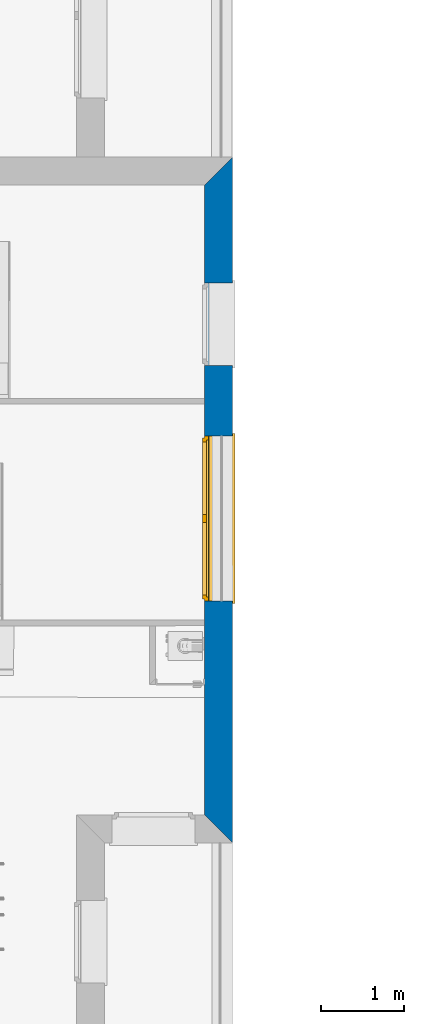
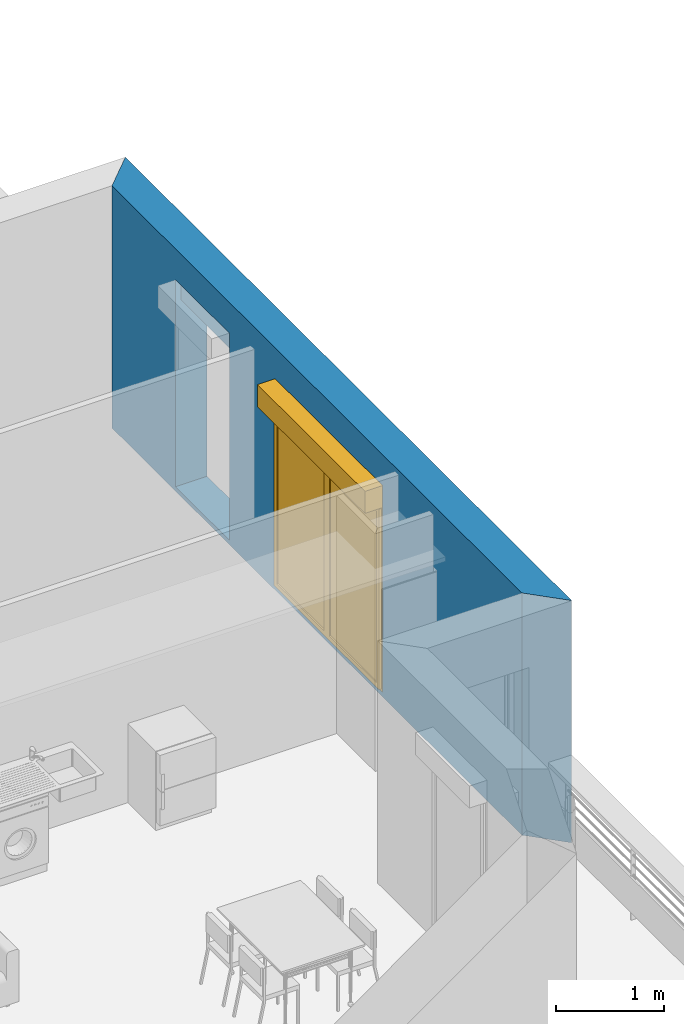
# One storey, part 17 of 164: 1 wall, 1 window, 2 openings.
"""IFC2X3 building model written with IfcOpenShell, lengths in millimetres."""

from ifc_helpers import new_model, entity, si_unit, converted_unit, derived_unit, money_unit, direction, frame, origin_with_axes, place, context, subcontext, project, spatial, polyline, outline, extrude, open_shell, faceted_brep, surface_model, source, transform, mapped, material, layer, layer_set, layer_usage, type_object, element, fill, save


model = new_model("IFC2X3")

# Units and contexts
model_context = context("Model", 3, precision=0.01, world=origin_with_axes(), true_north=direction((0.0, 1.0)))
body_context = subcontext(model_context, "Body", "Model", "MODEL_VIEW")
ifc_project = project(units=[si_unit("LENGTHUNIT", "METRE", prefix="MILLI"), si_unit("AREAUNIT", "SQUARE_METRE"), si_unit("VOLUMEUNIT", "CUBIC_METRE"), converted_unit("PLANEANGLEUNIT", "DEGREE", entity("IfcPlaneAngleMeasure", 0.0174532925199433), si_unit("PLANEANGLEUNIT", "RADIAN"), dimensions=[0, 0, 0, 0, 0, 0, 0]), money_unit("USD"), converted_unit("TIMEUNIT", "Year", entity("IfcTimeMeasure", 31557600.0), si_unit("TIMEUNIT", "SECOND"), dimensions=[0, 0, 1, 0, 0, 0, 0]), si_unit("MASSUNIT", "GRAM", prefix="KILO"), si_unit("THERMODYNAMICTEMPERATUREUNIT", "DEGREE_CELSIUS"), si_unit("LUMINOUSINTENSITYUNIT", "LUMEN"), si_unit("ENERGYUNIT", "JOULE", prefix="MEGA"), derived_unit("THERMALCONDUCTANCEUNIT", [(si_unit("POWERUNIT", "WATT"), 1), (si_unit("LENGTHUNIT", "METRE"), -1), (si_unit("THERMODYNAMICTEMPERATUREUNIT", "KELVIN"), -1)]), derived_unit("SPECIFICHEATCAPACITYUNIT", [(si_unit("ENERGYUNIT", "JOULE"), 1), (si_unit("MASSUNIT", "GRAM", prefix="KILO"), -1), (si_unit("THERMODYNAMICTEMPERATUREUNIT", "KELVIN"), -1)]), derived_unit("MASSDENSITYUNIT", [(si_unit("MASSUNIT", "GRAM", prefix="KILO"), 1), (si_unit("VOLUMEUNIT", "CUBIC_METRE"), -1)])], contexts=[model_context])

# Site, building, storey
site_placement = place(None, origin_with_axes())
site = spatial("IfcSite", under=ifc_project, at=site_placement, Name="Site", CompositionType="ELEMENT")
building_placement = place(site_placement, origin_with_axes())
building = spatial("IfcBuilding", under=site, at=building_placement, Name="Bâtiment", CompositionType="ELEMENT")
storey_placement = place(building_placement, frame((0.0, 0.0, 5750.0), z_axis=(0.0, 0.0, 1.0), x_axis=(1.0, 0.0, 0.0)))
storey = spatial("IfcBuildingStorey", under=building, at=storey_placement, Name="Etage1", CompositionType="ELEMENT", Elevation=5750.0)

# Wall, openings, window
ifc_material_1 = material(Name="Parpaing 312445824")
ifc_layer_1 = layer(ifc_material_1, 180.0, ventilated="UNKNOWN")
ifc_material_2 = material(Name="Isolant styromousse 301821074")
ifc_layer_2 = layer(ifc_material_2, 160.0, ventilated="UNKNOWN")
ifc_layer_set = layer_set([ifc_layer_1, ifc_layer_2], Name="isol int 18+16 0018356637")
ifc_layer_usage = layer_usage(ifc_layer_set, "AXIS2", "POSITIVE", 0.0)
wall_type = type_object("IfcWallType", Name="isol int 18+16 0018356637 340", PredefinedType="NOTDEFINED")
wall_placement = place(storey_placement, frame((2234356.671296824, -655041.4677782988, 0.0), z_axis=(0.0, 0.0, 1.0), x_axis=(0.0, 1.0, 0.0)))
wall = element("IfcWallStandardCase", 1, at=wall_placement, inside=storey, type_object=wall_type, material=ifc_layer_usage, Name="Mur-144", context=body_context, shape_type="SweptSolid", body=[
    extrude(outline(polyline([(0.0, 0.0), (8303.026474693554, 0.0), (7963.02647469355, 340.0000000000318), (339.9999999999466, 340.0000000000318), (0.0, 0.0)])), origin_with_axes(), (0.0, 0.0, 1.0), 2750.0),
])
opening_1_placement = place(wall_placement, frame((3927.8378465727, -2.273736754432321e-10, 49.99999999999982), z_axis=(0.0, 0.0, 1.0), x_axis=(1.0, 0.0, 0.0)))
opening_1 = element("IfcOpeningElement", 2, at=opening_1_placement, cuts=wall, Name="Fen-207", context=body_context, shape_type="Brep", body=[
    faceted_brep([(1000.0, 290.0000000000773, 2100.0), (1000.0, 280.0000000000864, 2100.0), (1000.0, -0.9999999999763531, 2100.0), (1000.0, -0.9999999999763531, 0.0), (1000.0, 290.0000000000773, 0.0), (1000.0, 341.0000000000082, 2100.0), (1000.0, 530.0000000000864, 2100.0), (1000.0, 530.0000000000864, 2350.0), (1000.0, 280.0000000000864, 2350.0), (-1000.0, 280.0000000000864, 2100.0), (-1000.0, -0.9999999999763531, 2100.0), (-1000.0, -0.9999999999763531, 0.0), (-1000.0, 290.0000000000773, 0.0), (-1000.0, 341.0000000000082, 0.0), (1000.0, 341.0000000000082, 0.0), (-1000.0, 341.0000000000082, 2100.0), (-1000.0, 530.0000000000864, 2100.0), (-1000.0, 530.0000000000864, 2350.0), (-1000.0, 280.0000000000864, 2350.0), (-1000.0, 290.0000000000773, 2100.0)], [[[0, 1, 2, 3, 4]], [[1, 0, 5, 6, 7, 8]], [[1, 9, 10, 2]], [[10, 11, 3, 2]], [[4, 3, 11, 12, 13, 14]], [[5, 0, 4, 14]], [[5, 15, 16, 6]], [[7, 6, 16, 17]], [[8, 7, 17, 18]], [[9, 1, 8, 18]], [[9, 19, 12, 11, 10]], [[19, 15, 13, 12]], [[15, 5, 14, 13]], [[19, 9, 18, 17, 16, 15]]]),
])
opening_2_placement = place(wall_placement, frame((6281.330882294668, -2.273736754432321e-10, 49.99999999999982), z_axis=(0.0, 0.0, 1.0), x_axis=(1.0, 0.0, 0.0)))
element("IfcOpeningElement", 3, at=opening_2_placement, cuts=wall, Name="Fen-133", context=body_context, shape_type="Brep", body=[
    faceted_brep([(500.0, 290.0000000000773, 2100.0), (500.0, 280.0000000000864, 2100.0), (500.0, -0.9999999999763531, 2100.0), (500.0, -0.9999999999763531, 0.0), (500.0, 290.0000000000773, 0.0), (500.0, 341.0000000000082, 2100.0), (500.0, 530.0000000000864, 2100.0), (500.0, 530.0000000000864, 2350.0), (500.0, 280.0000000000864, 2350.0), (-500.0, 280.0000000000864, 2100.0), (-500.0, -0.9999999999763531, 2100.0), (-500.0, -0.9999999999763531, 0.0), (-500.0, 290.0000000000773, 0.0), (-500.0, 341.0000000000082, 0.0), (500.0, 341.0000000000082, 0.0), (-500.0, 341.0000000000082, 2100.0), (-500.0, 530.0000000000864, 2100.0), (-500.0, 530.0000000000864, 2350.0), (-500.0, 280.0000000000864, 2350.0), (-500.0, 290.0000000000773, 2100.0)], [[[0, 1, 2, 3, 4]], [[1, 0, 5, 6, 7, 8]], [[1, 9, 10, 2]], [[10, 11, 3, 2]], [[4, 3, 11, 12, 13, 14]], [[5, 0, 4, 14]], [[5, 15, 16, 6]], [[7, 6, 16, 17]], [[8, 7, 17, 18]], [[9, 1, 8, 18]], [[9, 19, 12, 11, 10]], [[19, 15, 13, 12]], [[15, 5, 14, 13]], [[19, 9, 18, 17, 16, 15]]]),
])
window_style = type_object("IfcWindowStyle", Name="Fenêtre châssis double variable 27", ConstructionType="NOTDEFINED", OperationType="DOUBLE_PANEL_VERTICAL", ParameterTakesPrecedence=False, Sizeable=False)
shared_shape = source(origin_with_axes(), body_context, "Body", "SurfaceModel", [
    surface_model("IfcShellBasedSurfaceModel", [(1000.0, -51.00000000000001, 40.00000000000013), (1000.0, -51.00000000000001, 50.00000000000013), (-1000.0, -51.00000000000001, 50.0), (-1000.0, -51.00000000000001, 40.0), (1030.0, -369.9999999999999, 28.96551724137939), (1030.0, -339.9999999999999, 30.00324289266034), (1000.0, -339.9999999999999, 30.00324289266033), (-1000.0, -339.9999999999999, 30.00324289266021), (-1030.0, -339.9999999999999, 30.00324289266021), (-1030.0, -369.9999999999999, 28.96551724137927), (1030.0, -369.9999999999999, 8.965517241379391), (-1030.0, -369.9999999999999, 8.965517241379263), (1030.0, -359.9999999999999, 18.96551724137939), (-1030.0, -359.9999999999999, 18.96551724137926)], [open_shell([[[0, 1, 2, 3]], [[4, 5, 6, 0, 3, 7, 8, 9]], [[10, 4, 9, 11]], [[12, 10, 11, 13]]])]),
    faceted_brep([(-1000.0, -60.00000000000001, 2350.0), (-997.0, -60.00000000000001, 2350.0), (-997.0, 190.0, 2350.0), (-1000.0, 190.0, 2350.0), (-1000.0, -60.00000000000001, 2100.0), (-997.0, -60.00000000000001, 2100.0), (-997.0, 190.0, 2100.0), (-1000.0, 190.0, 2100.0)], [[[0, 1, 2, 3]], [[4, 5, 1, 0]], [[1, 5, 6, 2]], [[3, 2, 6, 7]], [[0, 3, 7, 4]], [[7, 6, 5, 4]]]),
    faceted_brep([(997.0000000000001, -59.99999999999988, 2350.0), (1000.0, -59.99999999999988, 2350.0), (1000.0, 190.0000000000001, 2350.0), (997.0000000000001, 190.0000000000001, 2350.0), (997.0000000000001, -59.99999999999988, 2100.0), (1000.0, -59.99999999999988, 2100.0), (1000.0, 190.0000000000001, 2100.0), (997.0000000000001, 190.0000000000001, 2100.0)], [[[0, 1, 2, 3]], [[4, 5, 1, 0]], [[1, 5, 6, 2]], [[3, 2, 6, 7]], [[0, 3, 7, 4]], [[7, 6, 5, 4]]]),
    faceted_brep([(-997.0, -60.0, 2100.0), (997.0, -59.99999999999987, 2100.0), (997.0, -59.99999999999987, 2350.0), (-997.0, -60.0, 2350.0), (-997.0, -56.99999999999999, 2100.0), (997.0, -56.99999999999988, 2100.0), (997.0, -56.99999999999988, 2347.0), (997.0, 187.0000000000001, 2347.0), (997.0, 187.0000000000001, 2103.0), (997.0, -37.99999999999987, 2103.0), (997.0, -37.99999999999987, 2100.0), (997.0, 190.0000000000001, 2100.0), (997.0, 190.0000000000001, 2350.0), (-997.0, 190.0, 2350.0), (-997.0, 190.0, 2100.0), (-997.0, -37.99999999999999, 2100.0), (-997.0, -37.99999999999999, 2103.0), (-997.0, 187.0, 2103.0), (-997.0, 187.0, 2347.0), (-997.0, -56.99999999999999, 2347.0)], [[[0, 1, 2, 3]], [[4, 5, 1, 0]], [[1, 5, 6, 7, 8, 9, 10, 11, 12, 2]], [[3, 2, 12, 13]], [[0, 3, 13, 14, 15, 16, 17, 18, 19, 4]], [[19, 6, 5, 4]], [[18, 7, 6, 19]], [[17, 8, 7, 18]], [[16, 9, 8, 17]], [[15, 10, 9, 16]], [[14, 11, 10, 15]], [[13, 12, 11, 14]]]),
    faceted_brep([(-994.0, -40.37442957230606, 2206.419644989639), (-994.0, -41.99999999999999, 2225.0), (-994.0, -40.37442957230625, 2243.580355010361), (-994.0, -35.54711042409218, 2261.596155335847), (-994.0, -27.66471820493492, 2278.5), (-994.0, -16.96675541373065, 2293.77827423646), (-994.0, -3.778274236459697, 2306.966755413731), (-994.0, 11.5, 2317.664718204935), (-994.0, 28.40384466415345, 2325.547110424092), (-994.0, 46.41964498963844, 2330.374429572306), (-994.0, 64.99999999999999, 2332.0), (-994.0, 83.58035501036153, 2330.374429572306), (-994.0, 101.5961553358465, 2325.547110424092), (-994.0, 118.5, 2317.664718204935), (-994.0, 133.7782742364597, 2306.966755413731), (-994.0, 146.9667554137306, 2293.77827423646), (-994.0, 157.6647182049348, 2278.5), (-994.0, 165.5471104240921, 2261.596155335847), (-994.0, 170.3744295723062, 2243.580355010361), (-994.0, 171.9999999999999, 2225.0), (-994.0, 170.3744295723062, 2206.419644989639), (-994.0, 165.5471104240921, 2188.403844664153), (-994.0, 157.6647182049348, 2171.5), (-994.0, 146.9667554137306, 2156.22172576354), (-994.0, 133.7782742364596, 2143.03324458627), (-994.0, 118.4999999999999, 2132.335281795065), (-994.0, 101.5961553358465, 2124.452889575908), (-994.0, 83.58035501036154, 2119.625570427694), (-994.0, 65.00000000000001, 2118.0), (-994.0, 46.4196449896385, 2119.625570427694), (-994.0, 28.40384466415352, 2124.452889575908), (-994.0, 11.50000000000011, 2132.335281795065), (-994.0, -3.778274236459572, 2143.03324458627), (-994.0, -16.9667554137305, 2156.22172576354), (-994.0, -27.66471820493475, 2171.5), (-994.0, -35.54711042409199, 2188.403844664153), (994.0, -40.37442957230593, 2206.419644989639), (994.0, -41.99999999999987, 2225.0), (994.0, -40.37442957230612, 2243.580355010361), (994.0, -35.54711042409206, 2261.596155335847), (994.0, -27.6647182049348, 2278.5), (994.0, -16.96675541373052, 2293.77827423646), (994.0, -3.778274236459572, 2306.966755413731), (994.0, 11.50000000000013, 2317.664718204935), (994.0, 28.40384466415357, 2325.547110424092), (994.0, 46.41964498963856, 2330.374429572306), (994.0, 65.00000000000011, 2332.0), (994.0, 83.58035501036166, 2330.374429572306), (994.0, 101.5961553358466, 2325.547110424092), (994.0, 118.5000000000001, 2317.664718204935), (994.0, 133.7782742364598, 2306.966755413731), (994.0, 146.9667554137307, 2293.77827423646), (994.0, 157.664718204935, 2278.5), (994.0, 165.5471104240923, 2261.596155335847), (994.0, 170.3744295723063, 2243.580355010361), (994.0, 172.0, 2225.0), (994.0, 170.3744295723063, 2206.419644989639), (994.0, 165.5471104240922, 2188.403844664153), (994.0, 157.6647182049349, 2171.5), (994.0, 146.9667554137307, 2156.22172576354), (994.0, 133.7782742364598, 2143.03324458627), (994.0, 118.5000000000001, 2132.335281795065), (994.0, 101.5961553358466, 2124.452889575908), (994.0, 83.58035501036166, 2119.625570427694), (994.0, 65.00000000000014, 2118.0), (994.0, 46.41964498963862, 2119.625570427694), (994.0, 28.40384466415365, 2124.452889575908), (994.0, 11.50000000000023, 2132.335281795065), (994.0, -3.778274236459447, 2143.03324458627), (994.0, -16.96675541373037, 2156.22172576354), (994.0, -27.66471820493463, 2171.5), (994.0, -35.54711042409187, 2188.403844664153)], [[[0, 1, 2, 3, 4, 5, 6, 7, 8, 9, 10, 11, 12, 13, 14, 15, 16, 17, 18, 19, 20, 21, 22, 23, 24, 25, 26, 27, 28, 29, 30, 31, 32, 33, 34, 35]], [[0, 36, 37, 1]], [[1, 37, 38, 2]], [[2, 38, 39, 3]], [[3, 39, 40, 4]], [[4, 40, 41, 5]], [[5, 41, 42, 6]], [[6, 42, 43, 7]], [[7, 43, 44, 8]], [[8, 44, 45, 9]], [[9, 45, 46, 10]], [[10, 46, 47, 11]], [[11, 47, 48, 12]], [[12, 48, 49, 13]], [[13, 49, 50, 14]], [[14, 50, 51, 15]], [[15, 51, 52, 16]], [[16, 52, 53, 17]], [[17, 53, 54, 18]], [[18, 54, 55, 19]], [[19, 55, 56, 20]], [[20, 56, 57, 21]], [[21, 57, 58, 22]], [[22, 58, 59, 23]], [[23, 59, 60, 24]], [[24, 60, 61, 25]], [[25, 61, 62, 26]], [[26, 62, 63, 27]], [[27, 63, 64, 28]], [[28, 64, 65, 29]], [[29, 65, 66, 30]], [[30, 66, 67, 31]], [[31, 67, 68, 32]], [[32, 68, 69, 33]], [[33, 69, 70, 34]], [[34, 70, 71, 35]], [[35, 71, 36, 0]], [[36, 71, 70, 69, 68, 67, 66, 65, 64, 63, 62, 61, 60, 59, 58, 57, 56, 55, 54, 53, 52, 51, 50, 49, 48, 47, 46, 45, 44, 43, 42, 41, 40, 39, 38, 37]]]),
    faceted_brep([(1000.0, -34.99999999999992, 30.0), (1000.0, -34.99999999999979, 2100.0), (1000.0, -59.99999999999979, 2100.0), (1000.0, -59.99999999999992, 30.0), (975.0, -34.99999999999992, 30.0), (975.0, -34.99999999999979, 2100.0), (975.0, -37.99999999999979, 2100.0), (997.0, -37.99999999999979, 2100.0), (997.0, -56.99999999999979, 2100.0), (975.0, -56.99999999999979, 2100.0), (975.0, -59.99999999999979, 2100.0), (975.0, -59.99999999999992, 30.0), (975.0, -56.99999999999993, 30.0), (997.0, -56.99999999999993, 30.0), (997.0, -37.99999999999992, 30.0), (975.0, -37.99999999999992, 30.0)], [[[0, 1, 2, 3]], [[4, 5, 1, 0]], [[1, 5, 6, 7, 8, 9, 10, 2]], [[3, 2, 10, 11]], [[0, 3, 11, 12, 13, 14, 15, 4]], [[15, 6, 5, 4]], [[14, 7, 6, 15]], [[13, 8, 7, 14]], [[12, 9, 8, 13]], [[11, 10, 9, 12]]]),
    faceted_brep([(-1000.0, -34.99999999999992, 30.0), (-1000.0, -59.99999999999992, 30.0), (-1000.0, -59.99999999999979, 2100.0), (-1000.0, -34.99999999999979, 2100.0), (-975.0, -34.99999999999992, 30.0), (-975.0, -37.99999999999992, 30.0), (-997.0, -37.99999999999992, 30.0), (-997.0, -56.99999999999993, 30.0), (-975.0, -56.99999999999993, 30.0), (-975.0, -59.99999999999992, 30.0), (-975.0, -59.99999999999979, 2100.0), (-975.0, -56.99999999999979, 2100.0), (-997.0, -56.99999999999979, 2100.0), (-997.0, -37.99999999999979, 2100.0), (-975.0, -37.99999999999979, 2100.0), (-975.0, -34.99999999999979, 2100.0)], [[[0, 1, 2, 3]], [[0, 4, 5, 6, 7, 8, 9, 1]], [[1, 9, 10, 2]], [[3, 2, 10, 11, 12, 13, 14, 15]], [[4, 0, 3, 15]], [[5, 4, 15, 14]], [[6, 5, 14, 13]], [[7, 6, 13, 12]], [[8, 7, 12, 11]], [[9, 8, 11, 10]]]),
    faceted_brep([(997.0, -46.66666666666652, 2225.0), (997.0, -46.66666666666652, 2216.666666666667), (-997.0, -46.66666666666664, 2216.666666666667), (-997.0, -46.66666666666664, 2225.0), (997.0, -51.66666666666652, 2225.0), (997.0, -51.66666666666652, 2216.666666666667), (997.0, -49.99999999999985, 2200.0), (997.0, -44.99999999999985, 2200.0), (-997.0, -44.99999999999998, 2200.0), (-997.0, -49.99999999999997, 2200.0), (-997.0, -51.66666666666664, 2216.666666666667), (-997.0, -51.66666666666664, 2225.0)], [[[0, 1, 2, 3]], [[4, 5, 6, 7, 1, 0]], [[2, 1, 7, 8]], [[3, 2, 8, 9, 10, 11]], [[3, 11, 4, 0]], [[10, 5, 4, 11]], [[9, 6, 5, 10]], [[8, 7, 6, 9]]]),
    faceted_brep([(-997.0, -44.99999999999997, 2200.0), (997.0, -44.99999999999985, 2200.0), (997.0, -46.66666666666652, 2183.333333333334), (-997.0, -46.66666666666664, 2183.333333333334), (-997.0, -49.99999999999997, 2200.0), (997.0, -49.99999999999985, 2200.0), (997.0, -51.66666666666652, 2183.333333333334), (997.0, -51.66666666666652, 2166.666666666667), (997.0, -49.99999999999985, 2150.000000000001), (997.0, -44.99999999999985, 2150.000000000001), (997.0, -46.66666666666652, 2166.666666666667), (-997.0, -46.66666666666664, 2166.666666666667), (-997.0, -44.99999999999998, 2150.000000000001), (-997.0, -49.99999999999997, 2150.000000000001), (-997.0, -51.66666666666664, 2166.666666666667), (-997.0, -51.66666666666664, 2183.333333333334)], [[[0, 1, 2, 3]], [[4, 5, 1, 0]], [[1, 5, 6, 7, 8, 9, 10, 2]], [[3, 2, 10, 11]], [[0, 3, 11, 12, 13, 14, 15, 4]], [[15, 6, 5, 4]], [[14, 7, 6, 15]], [[13, 8, 7, 14]], [[12, 9, 8, 13]], [[11, 10, 9, 12]]]),
    faceted_brep([(-997.0, -44.99999999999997, 2150.000000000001), (997.0, -44.99999999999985, 2150.000000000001), (997.0, -46.66666666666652, 2133.333333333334), (-997.0, -46.66666666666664, 2133.333333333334), (-997.0, -49.99999999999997, 2150.000000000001), (997.0, -49.99999999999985, 2150.000000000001), (997.0, -51.66666666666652, 2133.333333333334), (997.0, -51.66666666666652, 2116.666666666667), (997.0, -49.99999999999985, 2100.000000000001), (997.0, -44.99999999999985, 2100.000000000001), (997.0, -46.66666666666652, 2116.666666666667), (-997.0, -46.66666666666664, 2116.666666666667), (-997.0, -44.99999999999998, 2100.000000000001), (-997.0, -49.99999999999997, 2100.000000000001), (-997.0, -51.66666666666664, 2116.666666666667), (-997.0, -51.66666666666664, 2133.333333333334)], [[[0, 1, 2, 3]], [[4, 5, 1, 0]], [[1, 5, 6, 7, 8, 9, 10, 2]], [[3, 2, 10, 11]], [[0, 3, 11, 12, 13, 14, 15, 4]], [[15, 6, 5, 4]], [[14, 7, 6, 15]], [[13, 8, 7, 14]], [[12, 9, 8, 13]], [[11, 10, 9, 12]]]),
    faceted_brep([(-975.0, 0.0, 2050.0), (-1000.0, 0.0, 2050.0), (-1000.0, -50.00000000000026, 2050.0), (-950.0, -50.00000000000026, 2050.0), (-950.0, -25.00000000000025, 2050.0), (-975.0, -25.00000000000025, 2050.0), (-975.0, 0.0, 50.00000000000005), (-1000.0, 0.0, 50.00000000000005), (-1000.0, -50.00000000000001, 50.00000000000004), (-950.0, -50.00000000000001, 50.00000000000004), (-950.0, -25.00000000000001, 50.00000000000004), (-975.0, -25.00000000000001, 50.00000000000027)], [[[0, 1, 2, 3, 4, 5]], [[6, 7, 1, 0]], [[1, 7, 8, 2]], [[2, 8, 9, 3]], [[4, 3, 9, 10]], [[10, 11, 5, 4]], [[5, 11, 6, 0]], [[11, 10, 9, 8, 7, 6]]]),
    faceted_brep([(950.0, -25.00000000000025, 2050.0), (950.0, -50.00000000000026, 2050.0), (1000.0, -50.00000000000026, 2050.0), (1000.0, 0.0, 2050.0), (975.0, 0.0, 2050.0), (975.0, -25.00000000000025, 2050.0), (950.0, -25.00000000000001, 50.00000000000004), (950.0, -50.00000000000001, 50.00000000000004), (1000.0, -50.00000000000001, 50.00000000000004), (1000.0, 0.0, 50.00000000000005), (975.0, 0.0, 50.00000000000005), (975.0, -25.00000000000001, 50.00000000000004)], [[[0, 1, 2, 3, 4, 5]], [[6, 7, 1, 0]], [[8, 2, 1, 7]], [[9, 3, 2, 8]], [[4, 3, 9, 10]], [[10, 11, 5, 4]], [[5, 11, 6, 0]], [[11, 10, 9, 8, 7, 6]]]),
    faceted_brep([(950.0, -25.00000000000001, 50.00000000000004), (950.0, -50.00000000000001, 50.00000000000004), (1000.0, -50.00000000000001, 50.00000000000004), (1000.0, 0.0, 50.00000000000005), (975.0, 0.0, 50.00000000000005), (975.0, -25.00000000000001, 50.00000000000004), (-950.0, -25.00000000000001, 50.00000000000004), (-950.0, -50.00000000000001, 50.00000000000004), (-1000.0, -50.00000000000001, 50.00000000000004), (-1000.0, -50.0, 0.0), (1000.0, -50.0, 0.0), (1000.0, 0.0, 0.0), (-975.0, 0.0, 24.99999999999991), (975.0, 0.0, 24.99999999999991), (-1000.0, 0.0, 0.0), (-1000.0, 0.0, 50.00000000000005), (-975.0, 0.0, 50.00000000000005), (975.0, -25.0, 24.99999999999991), (-975.0, -25.0, 24.99999999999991), (-975.0, -25.00000000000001, 50.00000000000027)], [[[0, 1, 2, 3, 4, 5]], [[6, 7, 1, 0]], [[8, 9, 10, 2, 1, 7]], [[11, 3, 2, 10]], [[12, 13, 4, 3, 11, 14, 15, 16]], [[13, 17, 5, 4]], [[5, 17, 18, 19, 6, 0]], [[19, 16, 15, 8, 7, 6]], [[15, 14, 9, 8]], [[14, 11, 10, 9]], [[12, 18, 17, 13]], [[19, 18, 12, 16]]]),
    faceted_brep([(-975.0, 0.0, 2050.0), (-1000.0, 0.0, 2050.0), (-1000.0, 0.0, 2100.0), (1000.0, 0.0, 2100.0), (1000.0, 0.0, 2050.0), (975.0, 0.0, 2050.0), (975.0, 0.0, 2075.0), (-975.0, 0.0, 2075.0), (-975.0, -25.00000000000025, 2050.0), (-950.0, -25.00000000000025, 2050.0), (-950.0, -50.00000000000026, 2050.0), (-1000.0, -50.00000000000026, 2050.0), (-1000.0, -50.00000000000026, 2100.0), (1000.0, -50.00000000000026, 2100.0), (1000.0, -50.00000000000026, 2050.0), (975.0, -25.00000000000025, 2050.0), (950.0, -50.00000000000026, 2050.0), (950.0, -25.00000000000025, 2050.0), (975.0, -25.00000000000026, 2075.0), (-975.0, -25.00000000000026, 2075.0)], [[[0, 1, 2, 3, 4, 5, 6, 7]], [[8, 9, 10, 11, 1, 0]], [[2, 1, 11, 12]], [[3, 2, 12, 13]], [[4, 3, 13, 14]], [[15, 5, 4, 14, 16, 17]], [[5, 15, 18, 6]], [[6, 18, 19, 7]], [[7, 19, 8, 0]], [[17, 9, 8, 19, 18, 15]], [[17, 16, 10, 9]], [[14, 13, 12, 11, 10, 16]]]),
    faceted_brep([(-925.0, -25.00000000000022, 2025.0), (-925.0, 24.99999999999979, 2025.0), (-975.0, 24.99999999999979, 2025.0), (-975.0, -25.00000000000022, 2025.0), (-925.0, -24.99999999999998, 75.00000000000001), (-925.0, 25.00000000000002, 75.00000000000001), (-975.0, 25.00000000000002, 75.00000000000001), (-975.0, -24.99999999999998, 75.00000000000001)], [[[0, 1, 2, 3]], [[4, 5, 1, 0]], [[1, 5, 6, 2]], [[3, 2, 6, 7]], [[0, 3, 7, 4]], [[7, 6, 5, 4]]]),
    faceted_brep([(-49.99999999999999, -25.00000000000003, 75.00000000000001), (-49.99999999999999, 24.99999999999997, 75.00000000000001), (0.0, 24.99999999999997, 75.00000000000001), (0.0, -25.00000000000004, 75.00000000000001), (-49.99999999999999, -25.00000000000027, 2025.0), (-49.99999999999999, 24.99999999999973, 2025.0), (0.0, 24.99999999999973, 2025.0), (0.0, -25.00000000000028, 2025.0)], [[[0, 1, 2, 3]], [[4, 5, 1, 0]], [[1, 5, 6, 2]], [[3, 2, 6, 7]], [[0, 3, 7, 4]], [[7, 6, 5, 4]]]),
    faceted_brep([(0.0, -25.00000000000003, 25.0), (0.0, 24.99999999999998, 25.00000000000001), (0.0, 24.99999999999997, 75.00000000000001), (0.0, -25.00000000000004, 75.00000000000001), (-975.0, -24.99999999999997, 25.0), (-975.0, 25.00000000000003, 25.00000000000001), (-975.0, 25.00000000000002, 75.00000000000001), (-925.0, 25.00000000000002, 75.00000000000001), (-49.99999999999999, 24.99999999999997, 75.00000000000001), (-49.99999999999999, -25.00000000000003, 75.00000000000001), (-925.0, -24.99999999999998, 75.00000000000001), (-975.0, -24.99999999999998, 75.00000000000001)], [[[0, 1, 2, 3]], [[4, 5, 1, 0]], [[1, 5, 6, 7, 8, 2]], [[3, 2, 8, 9]], [[0, 3, 9, 10, 11, 4]], [[11, 6, 5, 4]], [[10, 7, 6, 11]], [[9, 8, 7, 10]]]),
    faceted_brep([(-975.0, -25.00000000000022, 2075.0), (-975.0, 24.99999999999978, 2075.0), (-975.0, 24.99999999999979, 2025.0), (-975.0, -25.00000000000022, 2025.0), (0.0, -25.00000000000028, 2075.0), (0.0, 24.99999999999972, 2075.0), (0.0, 24.99999999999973, 2025.0), (-49.99999999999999, 24.99999999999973, 2025.0), (-925.0, 24.99999999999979, 2025.0), (-925.0, -25.00000000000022, 2025.0), (-49.99999999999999, -25.00000000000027, 2025.0), (0.0, -25.00000000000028, 2025.0)], [[[0, 1, 2, 3]], [[4, 5, 1, 0]], [[1, 5, 6, 7, 8, 2]], [[3, 2, 8, 9]], [[0, 3, 9, 10, 11, 4]], [[11, 6, 5, 4]], [[10, 7, 6, 11]], [[9, 8, 7, 10]]]),
    surface_model("IfcShellBasedSurfaceModel", [(-925.0, -10.00000000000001, 75.00000000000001), (-49.99999999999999, -10.00000000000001, 75.00000000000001), (-49.99999999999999, -10.00000000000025, 2025.0), (-925.0, -10.00000000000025, 2025.0)], [open_shell([[[0, 1, 2, 3]]])]),
    surface_model("IfcShellBasedSurfaceModel", [(-925.0, 9.999999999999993, 75.00000000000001), (-925.0, 9.999999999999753, 2025.0), (-49.99999999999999, 9.999999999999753, 2025.0), (-49.99999999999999, 9.999999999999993, 75.00000000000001)], [open_shell([[[0, 1, 2, 3]]])]),
    faceted_brep([(49.99999999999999, -25.00000000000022, 2025.0), (49.99999999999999, 24.99999999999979, 2025.0), (0.0, 24.99999999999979, 2025.0), (0.0, -25.00000000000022, 2025.0), (49.99999999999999, -24.99999999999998, 75.00000000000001), (49.99999999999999, 25.00000000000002, 75.00000000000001), (0.0, 25.00000000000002, 75.00000000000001), (0.0, -24.99999999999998, 75.00000000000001)], [[[0, 1, 2, 3]], [[4, 5, 1, 0]], [[1, 5, 6, 2]], [[3, 2, 6, 7]], [[0, 3, 7, 4]], [[7, 6, 5, 4]]]),
    faceted_brep([(925.0, -25.00000000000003, 75.00000000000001), (925.0, 24.99999999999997, 75.00000000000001), (975.0, 24.99999999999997, 75.00000000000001), (975.0, -25.00000000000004, 75.00000000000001), (925.0, -25.00000000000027, 2025.0), (925.0, 24.99999999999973, 2025.0), (975.0, 24.99999999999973, 2025.0), (975.0, -25.00000000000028, 2025.0)], [[[0, 1, 2, 3]], [[4, 5, 1, 0]], [[1, 5, 6, 2]], [[3, 2, 6, 7]], [[0, 3, 7, 4]], [[7, 6, 5, 4]]]),
    faceted_brep([(975.0, -25.00000000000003, 25.0), (975.0, 24.99999999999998, 25.00000000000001), (975.0, 24.99999999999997, 75.00000000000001), (975.0, -25.00000000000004, 75.00000000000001), (0.0, -24.99999999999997, 25.0), (0.0, 25.00000000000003, 25.00000000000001), (0.0, 25.00000000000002, 75.00000000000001), (49.99999999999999, 25.00000000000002, 75.00000000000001), (925.0, 24.99999999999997, 75.00000000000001), (925.0, -25.00000000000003, 75.00000000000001), (49.99999999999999, -24.99999999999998, 75.00000000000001), (0.0, -24.99999999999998, 75.00000000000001)], [[[0, 1, 2, 3]], [[4, 5, 1, 0]], [[1, 5, 6, 7, 8, 2]], [[3, 2, 8, 9]], [[0, 3, 9, 10, 11, 4]], [[11, 6, 5, 4]], [[10, 7, 6, 11]], [[9, 8, 7, 10]]]),
    faceted_brep([(0.0, -25.00000000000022, 2075.0), (0.0, 24.99999999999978, 2075.0), (0.0, 24.99999999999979, 2025.0), (0.0, -25.00000000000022, 2025.0), (975.0, -25.00000000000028, 2075.0), (975.0, 24.99999999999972, 2075.0), (975.0, 24.99999999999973, 2025.0), (925.0, 24.99999999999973, 2025.0), (49.99999999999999, 24.99999999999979, 2025.0), (49.99999999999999, -25.00000000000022, 2025.0), (925.0, -25.00000000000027, 2025.0), (975.0, -25.00000000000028, 2025.0)], [[[0, 1, 2, 3]], [[4, 5, 1, 0]], [[1, 5, 6, 7, 8, 2]], [[3, 2, 8, 9]], [[0, 3, 9, 10, 11, 4]], [[11, 6, 5, 4]], [[10, 7, 6, 11]], [[9, 8, 7, 10]]]),
    surface_model("IfcShellBasedSurfaceModel", [(49.99999999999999, -10.00000000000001, 75.00000000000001), (925.0, -10.00000000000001, 75.00000000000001), (925.0, -10.00000000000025, 2025.0), (49.99999999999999, -10.00000000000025, 2025.0)], [open_shell([[[0, 1, 2, 3]]])]),
    surface_model("IfcShellBasedSurfaceModel", [(49.99999999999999, 9.999999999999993, 75.00000000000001), (49.99999999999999, 9.999999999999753, 2025.0), (925.0, 9.999999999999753, 2025.0), (925.0, 9.999999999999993, 75.00000000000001)], [open_shell([[[0, 1, 2, 3]]])]),
])
window_placement = place(opening_1_placement, frame((-1000.000000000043, -2.273736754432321e-10, 0.0), z_axis=(0.0, 0.0, 1.0), x_axis=(1.0, 0.0, 0.0)))
window = element("IfcWindow", 4, at=window_placement, inside=storey, type_object=window_style, Name="Fen-207", OverallHeight=2100.0, OverallWidth=2000.0, context=body_context, shape_type="MappedRepresentation", body=[
    mapped(shared_shape, transform((1000.0, 340.0000000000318, 0.0))),
])
fill(opening_1, window)

save(model, "model.ifc")
